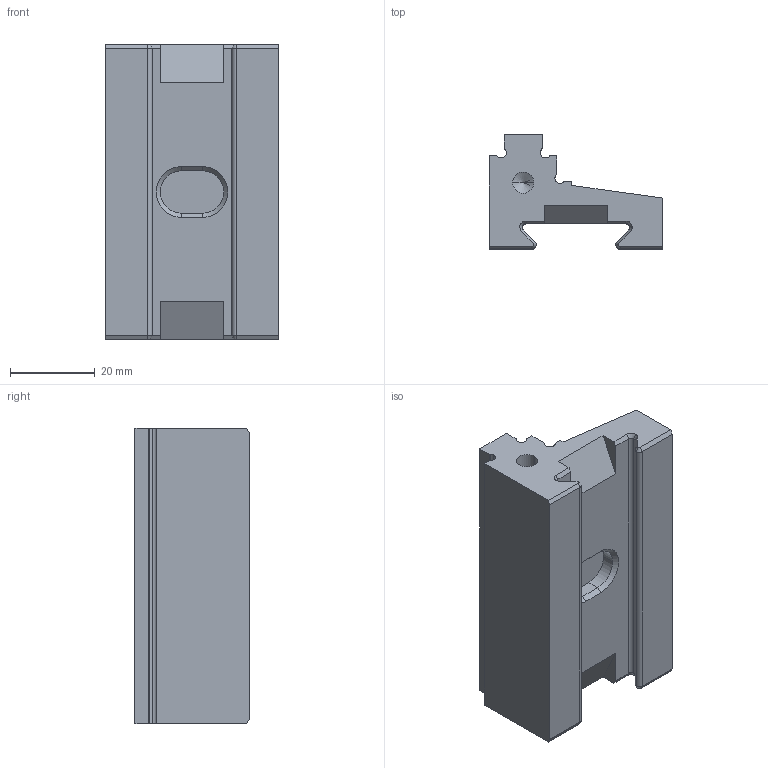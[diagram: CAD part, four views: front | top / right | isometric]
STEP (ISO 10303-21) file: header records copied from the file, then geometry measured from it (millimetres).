
FILE_DESCRIPTION (( 'STEP AP214' ), '1' );
FILE_NAME ('6921544010031.STEP', '2017-12-21T12:51:28', ( '' ), ( '' ), 'SwSTEP 2.0', 'SolidWorks 2016', '' );
FILE_SCHEMA (( 'AUTOMOTIVE_DESIGN' ));
Length unit declared in the file: millimetre
Products named in the file (1): 6921544010031
Bounding box: 41 x 27 x 70 mm (x, y, z)
Volume: 40712.1 mm3; surface area: 12680 mm2
Topology: 1 solids, 1 shells, 240 faces, 625 edges, 406 vertices
Faces by surface type: plane 132, bspline 73, cone 18, cylinder 17
Entity records: 11919 total; most frequent: CARTESIAN_POINT 6437, ORIENTED_EDGE 1242, DIRECTION 861, EDGE_CURVE 621, LINE 425, VECTOR 425, VERTEX_POINT 406, EDGE_LOOP 263
